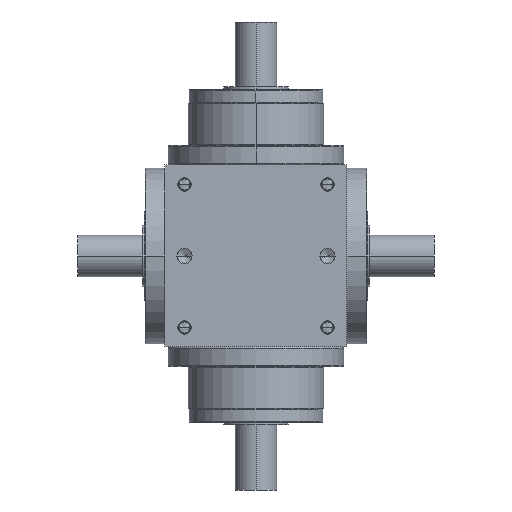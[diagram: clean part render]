
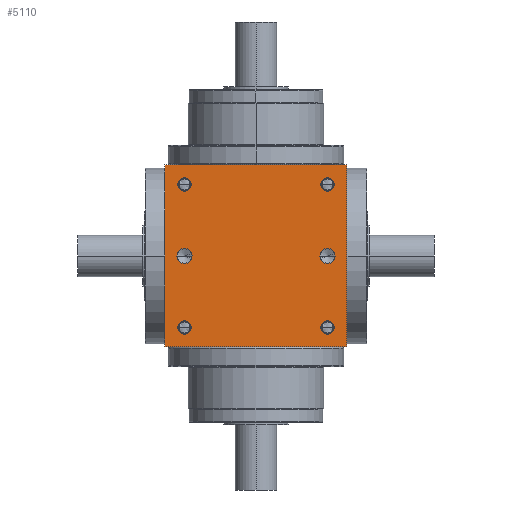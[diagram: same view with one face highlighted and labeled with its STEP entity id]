
A CAD part, front view. The second image highlights one B-rep face of the part: STEP entity #5110.
In plain terms, the highlighted planar face has unit normal (0, -1, 0).
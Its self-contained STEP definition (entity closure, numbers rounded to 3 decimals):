
#5=DIRECTION('',(1.,0.,0.));
#6=VECTOR('',#5,140.);
#7=CARTESIAN_POINT('',(-70.,-70.,-70.));
#8=LINE('',#7,#6);
#165=DIRECTION('',(0.,0.,1.));
#166=VECTOR('',#165,140.);
#167=CARTESIAN_POINT('',(70.,-70.,-70.));
#168=LINE('',#167,#166);
#219=DIRECTION('',(0.,0.,1.));
#220=VECTOR('',#219,140.);
#221=CARTESIAN_POINT('',(-70.,-70.,-70.));
#222=LINE('',#221,#220);
#223=CARTESIAN_POINT('',(55.,-70.,55.));
#224=DIRECTION('',(0.,1.,0.));
#225=DIRECTION('',(-1.,0.,0.));
#226=AXIS2_PLACEMENT_3D('',#223,#224,#225);
#228=CARTESIAN_POINT('',(55.,-70.,55.));
#229=DIRECTION('',(0.,1.,0.));
#230=DIRECTION('',(1.,0.,0.));
#231=AXIS2_PLACEMENT_3D('',#228,#229,#230);
#233=CARTESIAN_POINT('',(-55.,-70.,55.));
#234=DIRECTION('',(0.,1.,0.));
#235=DIRECTION('',(-1.,0.,0.));
#236=AXIS2_PLACEMENT_3D('',#233,#234,#235);
#238=CARTESIAN_POINT('',(-55.,-70.,55.));
#239=DIRECTION('',(0.,1.,0.));
#240=DIRECTION('',(1.,0.,0.));
#241=AXIS2_PLACEMENT_3D('',#238,#239,#240);
#243=CARTESIAN_POINT('',(55.,-70.,-55.));
#244=DIRECTION('',(0.,1.,0.));
#245=DIRECTION('',(-1.,0.,0.));
#246=AXIS2_PLACEMENT_3D('',#243,#244,#245);
#248=CARTESIAN_POINT('',(55.,-70.,-55.));
#249=DIRECTION('',(0.,1.,0.));
#250=DIRECTION('',(1.,0.,0.));
#251=AXIS2_PLACEMENT_3D('',#248,#249,#250);
#253=CARTESIAN_POINT('',(-55.,-70.,-55.));
#254=DIRECTION('',(0.,1.,0.));
#255=DIRECTION('',(-1.,0.,0.));
#256=AXIS2_PLACEMENT_3D('',#253,#254,#255);
#258=CARTESIAN_POINT('',(-55.,-70.,-55.));
#259=DIRECTION('',(0.,1.,0.));
#260=DIRECTION('',(1.,0.,0.));
#261=AXIS2_PLACEMENT_3D('',#258,#259,#260);
#263=CARTESIAN_POINT('',(-55.,-70.,0.));
#264=DIRECTION('',(0.,1.,0.));
#265=DIRECTION('',(1.,0.,0.));
#266=AXIS2_PLACEMENT_3D('',#263,#264,#265);
#268=CARTESIAN_POINT('',(-55.,-70.,0.));
#269=DIRECTION('',(0.,1.,0.));
#270=DIRECTION('',(-1.,0.,0.));
#271=AXIS2_PLACEMENT_3D('',#268,#269,#270);
#273=CARTESIAN_POINT('',(55.,-70.,0.));
#274=DIRECTION('',(0.,1.,0.));
#275=DIRECTION('',(1.,0.,0.));
#276=AXIS2_PLACEMENT_3D('',#273,#274,#275);
#278=CARTESIAN_POINT('',(55.,-70.,0.));
#279=DIRECTION('',(0.,1.,0.));
#280=DIRECTION('',(-1.,0.,0.));
#281=AXIS2_PLACEMENT_3D('',#278,#279,#280);
#295=DIRECTION('',(1.,0.,0.));
#296=VECTOR('',#295,140.);
#297=CARTESIAN_POINT('',(-70.,-70.,70.));
#298=LINE('',#297,#296);
#4084=CARTESIAN_POINT('',(-70.,-70.,-70.));
#4086=VERTEX_POINT('',#4084);
#4087=CARTESIAN_POINT('',(70.,-70.,-70.));
#4088=VERTEX_POINT('',#4087);
#4092=CARTESIAN_POINT('',(-70.,-70.,70.));
#4094=VERTEX_POINT('',#4092);
#4095=CARTESIAN_POINT('',(70.,-70.,70.));
#4096=VERTEX_POINT('',#4095);
#4275=CARTESIAN_POINT('',(49.75,-70.,55.));
#4276=CARTESIAN_POINT('',(60.25,-70.,55.));
#4277=VERTEX_POINT('',#4275);
#4278=VERTEX_POINT('',#4276);
#4283=CARTESIAN_POINT('',(-60.25,-70.,55.));
#4284=CARTESIAN_POINT('',(-49.75,-70.,55.));
#4285=VERTEX_POINT('',#4283);
#4286=VERTEX_POINT('',#4284);
#4291=CARTESIAN_POINT('',(49.75,-70.,-55.));
#4292=CARTESIAN_POINT('',(60.25,-70.,-55.));
#4293=VERTEX_POINT('',#4291);
#4294=VERTEX_POINT('',#4292);
#4299=CARTESIAN_POINT('',(-60.25,-70.,-55.));
#4300=CARTESIAN_POINT('',(-49.75,-70.,-55.));
#4301=VERTEX_POINT('',#4299);
#4302=VERTEX_POINT('',#4300);
#4659=CARTESIAN_POINT('',(-49.15,-70.,
0.));
#4660=CARTESIAN_POINT('',(-60.85,-70.,0.));
#4661=VERTEX_POINT('',#4659);
#4662=VERTEX_POINT('',#4660);
#4667=CARTESIAN_POINT('',(60.85,-70.,0.));
#4668=CARTESIAN_POINT('',(49.15,-70.,0.));
#4669=VERTEX_POINT('',#4667);
#4670=VERTEX_POINT('',#4668);
#5062=CARTESIAN_POINT('',(-70.,-70.,-70.));
#5063=DIRECTION('',(0.,-1.,0.));
#5064=DIRECTION('',(1.,0.,0.));
#5065=AXIS2_PLACEMENT_3D('',#5062,#5063,#5064);
#5066=PLANE('',#5065);
#5067=ORIENTED_EDGE('',*,*,#4896,.F.);
#5068=ORIENTED_EDGE('',*,*,#4945,.T.);
#5070=ORIENTED_EDGE('',*,*,#5069,.T.);
#5071=ORIENTED_EDGE('',*,*,#5024,.F.);
#5072=EDGE_LOOP('',(#5067,#5068,#5070,#5071));
#5073=FACE_OUTER_BOUND('',#5072,.F.);
#5075=ORIENTED_EDGE('',*,*,#5074,.F.);
#5077=ORIENTED_EDGE('',*,*,#5076,.F.);
#5078=EDGE_LOOP('',(#5075,#5077));
#5079=FACE_BOUND('',#5078,.F.);
#5081=ORIENTED_EDGE('',*,*,#5080,.F.);
#5083=ORIENTED_EDGE('',*,*,#5082,.F.);
#5084=EDGE_LOOP('',(#5081,#5083));
#5085=FACE_BOUND('',#5084,.F.);
#5087=ORIENTED_EDGE('',*,*,#5086,.F.);
#5089=ORIENTED_EDGE('',*,*,#5088,.F.);
#5090=EDGE_LOOP('',(#5087,#5089));
#5091=FACE_BOUND('',#5090,.F.);
#5093=ORIENTED_EDGE('',*,*,#5092,.F.);
#5095=ORIENTED_EDGE('',*,*,#5094,.F.);
#5096=EDGE_LOOP('',(#5093,#5095));
#5097=FACE_BOUND('',#5096,.F.);
#5099=ORIENTED_EDGE('',*,*,#5098,.F.);
#5101=ORIENTED_EDGE('',*,*,#5100,.F.);
#5102=EDGE_LOOP('',(#5099,#5101));
#5103=FACE_BOUND('',#5102,.F.);
#5105=ORIENTED_EDGE('',*,*,#5104,.F.);
#5107=ORIENTED_EDGE('',*,*,#5106,.F.);
#5108=EDGE_LOOP('',(#5105,#5107));
#5109=FACE_BOUND('',#5108,.F.);
#5110=ADVANCED_FACE('',(#5073,#5079,#5085,#5091,#5097,#5103,#5109),#5066,.T.);
#227=CIRCLE('',#226,5.25);
#232=CIRCLE('',#231,5.25);
#237=CIRCLE('',#236,5.25);
#242=CIRCLE('',#241,5.25);
#247=CIRCLE('',#246,5.25);
#252=CIRCLE('',#251,5.25);
#257=CIRCLE('',#256,5.25);
#262=CIRCLE('',#261,5.25);
#267=CIRCLE('',#266,5.85);
#272=CIRCLE('',#271,5.85);
#277=CIRCLE('',#276,5.85);
#282=CIRCLE('',#281,5.85);
#4896=EDGE_CURVE('',#4086,#4088,#8,.T.);
#4945=EDGE_CURVE('',#4086,#4094,#222,.T.);
#5024=EDGE_CURVE('',#4088,#4096,#168,.T.);
#5069=EDGE_CURVE('',#4094,#4096,#298,.T.);
#5074=EDGE_CURVE('',#4277,#4278,#227,.T.);
#5076=EDGE_CURVE('',#4278,#4277,#232,.T.);
#5080=EDGE_CURVE('',#4285,#4286,#237,.T.);
#5082=EDGE_CURVE('',#4286,#4285,#242,.T.);
#5086=EDGE_CURVE('',#4293,#4294,#247,.T.);
#5088=EDGE_CURVE('',#4294,#4293,#252,.T.);
#5092=EDGE_CURVE('',#4301,#4302,#257,.T.);
#5094=EDGE_CURVE('',#4302,#4301,#262,.T.);
#5098=EDGE_CURVE('',#4661,#4662,#267,.T.);
#5100=EDGE_CURVE('',#4662,#4661,#272,.T.);
#5104=EDGE_CURVE('',#4669,#4670,#277,.T.);
#5106=EDGE_CURVE('',#4670,#4669,#282,.T.);
